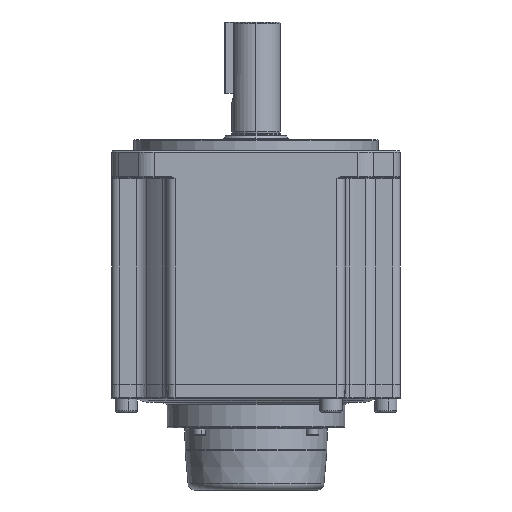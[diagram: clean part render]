
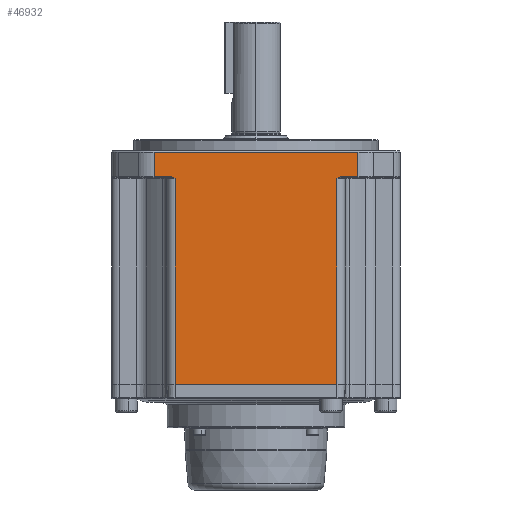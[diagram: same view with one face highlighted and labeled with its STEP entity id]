
A CAD part, front view. The second image highlights one B-rep face of the part: STEP entity #46932.
In plain terms, the highlighted planar face has unit normal (0, -1, 0).
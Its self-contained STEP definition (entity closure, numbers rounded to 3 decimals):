
#1034 = CARTESIAN_POINT ( 'NONE',  ( -45.858, -65., -5.5 ) ) ;
#2259 = CARTESIAN_POINT ( 'NONE',  ( -37.903, -65., -16.739 ) ) ;
#3317 = B_SPLINE_CURVE_WITH_KNOTS ( 'NONE', 3,
 ( #86491, #94015, #25358, #63974, #2259, #87481, #78923, #86979 ),
 .UNSPECIFIED., .F., .F.,
 ( 4, 2, 2, 4 ),
 ( 0., 0.001, 0.001, 0.003 ),
 .UNSPECIFIED. ) ;
#3876 = VERTEX_POINT ( 'NONE', #52106 ) ;
#5356 = ORIENTED_EDGE ( 'NONE', *, *, #6289, .T. ) ;
#5699 = CARTESIAN_POINT ( 'NONE',  ( -39.084, -65., -16.5 ) ) ;
#6109 = VECTOR ( 'NONE', #10992, 1000. ) ;
#6289 = EDGE_CURVE ( 'NONE', #32754, #84089, #24580, .T. ) ;
#7154 = CARTESIAN_POINT ( 'NONE',  ( 45.858, -65., -312.548 ) ) ;
#9444 = CARTESIAN_POINT ( 'NONE',  ( 39.084, -65., -16.5 ) ) ;
#9757 = VERTEX_POINT ( 'NONE', #68604 ) ;
#10094 = LINE ( 'NONE', #92851, #80352 ) ;
#10992 = DIRECTION ( 'NONE',  ( 0., 0., 1. ) ) ;
#12298 = EDGE_CURVE ( 'NONE', #51884, #32754, #10094, .T. ) ;
#14525 = CARTESIAN_POINT ( 'NONE',  ( 36.401, -65., -17.5 ) ) ;
#15582 = EDGE_CURVE ( 'NONE', #90799, #47931, #32773, .T. ) ;
#16898 = PLANE ( 'NONE',  #26699 ) ;
#17407 = CARTESIAN_POINT ( 'NONE',  ( -45.858, -65., -312.548 ) ) ;
#18032 = CARTESIAN_POINT ( 'NONE',  ( -36.401, -65., -110.1 ) ) ;
#18826 = B_SPLINE_CURVE_WITH_KNOTS ( 'NONE', 3,
 ( #14525, #91211, #59204, #89734, #32530, #63148, #47078, #9444 ),
 .UNSPECIFIED., .F., .F.,
 ( 4, 2, 2, 4 ),
 ( 0., 0.001, 0.002, 0.003 ),
 .UNSPECIFIED. ) ;
#19607 = EDGE_LOOP ( 'NONE', ( #40111, #36387, #5356, #93824, #59687, #70518, #65597, #37560, #63330, #31864 ) ) ;
#19838 = EDGE_CURVE ( 'NONE', #9757, #67398, #94097, .T. ) ;
#22647 = LINE ( 'NONE', #1034, #30158 ) ;
#24580 = LINE ( 'NONE', #62733, #6109 ) ;
#24950 = DIRECTION ( 'NONE',  ( 0., 0., 1. ) ) ;
#25358 = CARTESIAN_POINT ( 'NONE',  ( -38.601, -65., -16.537 ) ) ;
#26699 = AXIS2_PLACEMENT_3D ( 'NONE', #71553, #94631, #56530 ) ;
#27688 = VECTOR ( 'NONE', #48976, 1000. ) ;
#30158 = VECTOR ( 'NONE', #77210, 1000. ) ;
#31864 = ORIENTED_EDGE ( 'NONE', *, *, #62607, .T. ) ;
#32530 = CARTESIAN_POINT ( 'NONE',  ( 38.133, -65., -16.656 ) ) ;
#32697 = DIRECTION ( 'NONE',  ( 1., 0., 0. ) ) ;
#32754 = VERTEX_POINT ( 'NONE', #74236 ) ;
#32773 = LINE ( 'NONE', #93941, #82554 ) ;
#36387 = ORIENTED_EDGE ( 'NONE', *, *, #12298, .T. ) ;
#37074 = EDGE_CURVE ( 'NONE', #67398, #94557, #68221, .T. ) ;
#37560 = ORIENTED_EDGE ( 'NONE', *, *, #19838, .T. ) ;
#39799 = CARTESIAN_POINT ( 'NONE',  ( 45.858, -65., -16.5 ) ) ;
#40082 = EDGE_CURVE ( 'NONE', #84089, #90799, #18826, .T. ) ;
#40111 = ORIENTED_EDGE ( 'NONE', *, *, #50667, .F. ) ;
#41384 = VECTOR ( 'NONE', #24950, 1000. ) ;
#46932 = ADVANCED_FACE ( 'NONE', ( #47505 ), #16898, .T. ) ;
#47078 = CARTESIAN_POINT ( 'NONE',  ( 38.84, -65., -16.5 ) ) ;
#47505 = FACE_OUTER_BOUND ( 'NONE', #19607, .T. ) ;
#47931 = VERTEX_POINT ( 'NONE', #39799 ) ;
#48976 = DIRECTION ( 'NONE',  ( 0., 0., -1. ) ) ;
#50465 = EDGE_CURVE ( 'NONE', #59307, #9757, #22647, .T. ) ;
#50667 = EDGE_CURVE ( 'NONE', #51884, #3876, #70740, .T. ) ;
#50701 = CARTESIAN_POINT ( 'NONE',  ( 50., -65., -16.5 ) ) ;
#51884 = VERTEX_POINT ( 'NONE', #18032 ) ;
#52106 = CARTESIAN_POINT ( 'NONE',  ( -36.401, -65., -17.5 ) ) ;
#56530 = DIRECTION ( 'NONE',  ( 1., 0., 0. ) ) ;
#59204 = CARTESIAN_POINT ( 'NONE',  ( 37.239, -65., -17.023 ) ) ;
#59307 = VERTEX_POINT ( 'NONE', #95579 ) ;
#59687 = ORIENTED_EDGE ( 'NONE', *, *, #15582, .T. ) ;
#60855 = DIRECTION ( 'NONE',  ( 0., 0., 1. ) ) ;
#62607 = EDGE_CURVE ( 'NONE', #94557, #3876, #3317, .T. ) ;
#62733 = CARTESIAN_POINT ( 'NONE',  ( 36.401, -65., -128.7 ) ) ;
#63148 = CARTESIAN_POINT ( 'NONE',  ( 38.601, -65., -16.537 ) ) ;
#63330 = ORIENTED_EDGE ( 'NONE', *, *, #37074, .T. ) ;
#63974 = CARTESIAN_POINT ( 'NONE',  ( -38.133, -65., -16.656 ) ) ;
#65597 = ORIENTED_EDGE ( 'NONE', *, *, #50465, .T. ) ;
#67377 = LINE ( 'NONE', #7154, #75828 ) ;
#67398 = VERTEX_POINT ( 'NONE', #72805 ) ;
#68221 = LINE ( 'NONE', #50701, #84938 ) ;
#68604 = CARTESIAN_POINT ( 'NONE',  ( -45.858, -65., -5.5 ) ) ;
#70518 = ORIENTED_EDGE ( 'NONE', *, *, #81506, .T. ) ;
#70740 = LINE ( 'NONE', #86257, #41384 ) ;
#71553 = CARTESIAN_POINT ( 'NONE',  ( 50., -65., -312.548 ) ) ;
#71858 = DIRECTION ( 'NONE',  ( 1., 0., 0. ) ) ;
#72805 = CARTESIAN_POINT ( 'NONE',  ( -45.858, -65., -16.5 ) ) ;
#74236 = CARTESIAN_POINT ( 'NONE',  ( 36.401, -65., -110.1 ) ) ;
#75828 = VECTOR ( 'NONE', #60855, 1000. ) ;
#76166 = CARTESIAN_POINT ( 'NONE',  ( 39.084, -65., -16.5 ) ) ;
#77210 = DIRECTION ( 'NONE',  ( -1., 0., 0. ) ) ;
#78923 = CARTESIAN_POINT ( 'NONE',  ( -36.82, -65., -17.262 ) ) ;
#80352 = VECTOR ( 'NONE', #32697, 1000. ) ;
#81207 = DIRECTION ( 'NONE',  ( 1., 0., 0. ) ) ;
#81506 = EDGE_CURVE ( 'NONE', #47931, #59307, #67377, .T. ) ;
#82554 = VECTOR ( 'NONE', #71858, 1000. ) ;
#84089 = VERTEX_POINT ( 'NONE', #89945 ) ;
#84938 = VECTOR ( 'NONE', #81207, 1000. ) ;
#86257 = CARTESIAN_POINT ( 'NONE',  ( -36.401, -65., -128.7 ) ) ;
#86491 = CARTESIAN_POINT ( 'NONE',  ( -39.084, -65., -16.5 ) ) ;
#86979 = CARTESIAN_POINT ( 'NONE',  ( -36.401, -65., -17.5 ) ) ;
#87481 = CARTESIAN_POINT ( 'NONE',  ( -37.239, -65., -17.023 ) ) ;
#89734 = CARTESIAN_POINT ( 'NONE',  ( 37.903, -65., -16.739 ) ) ;
#89945 = CARTESIAN_POINT ( 'NONE',  ( 36.401, -65., -17.5 ) ) ;
#90799 = VERTEX_POINT ( 'NONE', #76166 ) ;
#91211 = CARTESIAN_POINT ( 'NONE',  ( 36.819, -65., -17.262 ) ) ;
#92851 = CARTESIAN_POINT ( 'NONE',  ( 50., -65., -110.1 ) ) ;
#93824 = ORIENTED_EDGE ( 'NONE', *, *, #40082, .T. ) ;
#93941 = CARTESIAN_POINT ( 'NONE',  ( 50., -65., -16.5 ) ) ;
#94015 = CARTESIAN_POINT ( 'NONE',  ( -38.84, -65., -16.5 ) ) ;
#94097 = LINE ( 'NONE', #17407, #27688 ) ;
#94557 = VERTEX_POINT ( 'NONE', #5699 ) ;
#94631 = DIRECTION ( 'NONE',  ( 0., -1., 0. ) ) ;
#95579 = CARTESIAN_POINT ( 'NONE',  ( 45.858, -65., -5.5 ) ) ;
